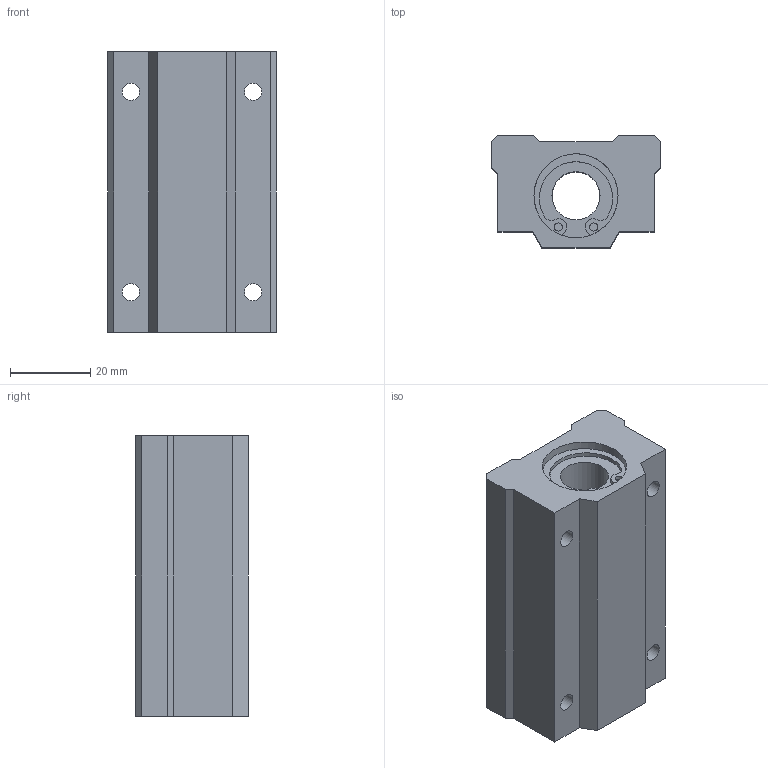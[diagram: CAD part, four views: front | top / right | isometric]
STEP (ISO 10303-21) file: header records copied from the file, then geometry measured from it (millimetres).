
FILE_DESCRIPTION(('STEP AP203'),'1');
FILE_NAME('//192.168.1.1/share/s-4 技術開発/s-4-4_CAD/s-4-4-3_見直し済み/008 修正済み/LC-L/LC-L_TOP/LC-12VLUU.step','2022-05-19T01:18:42',(' '),(' '),'Spatial InterOp 3D',' ',' ');
FILE_SCHEMA(('CONFIG_CONTROL_DESIGN'));
Length unit declared in the file: millimetre
Products named in the file (1): 1
Bounding box: 42 x 28 x 70 mm (x, y, z)
Volume: 60036.1 mm3; surface area: 15207.5 mm2
Topology: 1 solids, 1 shells, 61 faces, 159 edges, 106 vertices
Faces by surface type: plane 32, cylinder 29
Full cylindrical faces by diameter (mm): 2 x4, 4.3 x8, 12 x1, 21 x2
Entity records: 1824 total; most frequent: DIRECTION 318, CARTESIAN_POINT 300, ORIENTED_EDGE 276, EDGE_CURVE 138, AXIS2_PLACEMENT_3D 118, VERTEX_POINT 100, EDGE_LOOP 92, LINE 82
